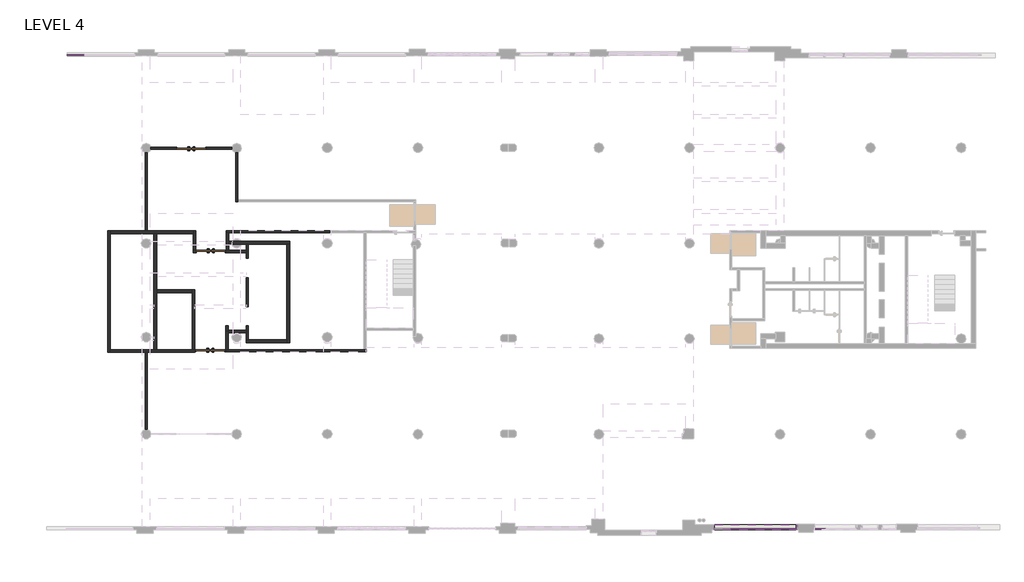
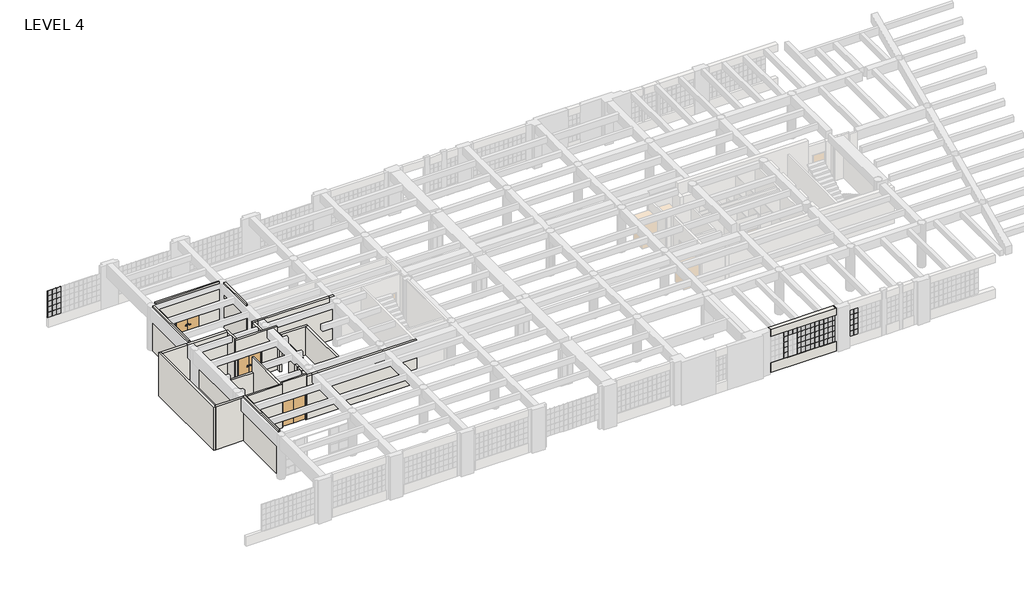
# One storey, part 9 of 26: 77 plates, 27 walls, 3 doors.
"""IFC4 building model written with IfcOpenShell, lengths in millimetres."""

from ifc_helpers import new_model, si_unit, frame, origin, origin_with_axes, place, context, project, spatial, polyline, outline, extrude, faceted_brep, transform, mapped, element, save
from components import door_08_door_double_swing_wh_f_36x84_ce0bac59, door_08_door_double_swing_wh_f_36x84_f193bb77, door_08_door_double_swing_wh_f_36x84_750f74ca, system_panel_glazed_ab35d819, system_panel_glazed_96186606, system_panel_glazed_418eb6cd, system_panel_glazed_24dc3dec

model = new_model("IFC4")

# Units and contexts
model_context = context("Model", 3, world=origin())
ifc_project = project(units=[si_unit("LENGTHUNIT", "METRE", prefix="MILLI")], contexts=[model_context])

# Site, building, storey
site = spatial("IfcSite", under=ifc_project)
building = spatial("IfcBuilding", under=site)
storey = spatial("IfcBuildingStorey", under=building, Name="LEVEL 4", Elevation=0.0)

# Doors
placement = place(None, origin())
door_08_door_double_swing_wh_f_36x84_shape = door_08_door_double_swing_wh_f_36x84_ce0bac59(model_context)
element("IfcDoor", 1, ObjectType="08-DOOR-DOUBLE-SWING-WH : F_36x84", at=placement, inside=storey, context=model_context, shape_type="MappedRepresentation", body=[
    mapped(door_08_door_double_swing_wh_f_36x84_shape, transform((-38929.2355887, 104786.3220201, 0.0), x_axis=(-1.0, 0.0, 0.0), y_axis=(0.0, -1.0, 0.0), z_axis=(0.0, 0.0, 1.0))),
])
door_08_door_double_swing_wh_f_36x84_2_shape = door_08_door_double_swing_wh_f_36x84_f193bb77(model_context)
element("IfcDoor", 2, ObjectType="08-DOOR-DOUBLE-SWING-WH : F_36x84", at=placement, inside=storey, context=model_context, shape_type="MappedRepresentation", body=[
    mapped(door_08_door_double_swing_wh_f_36x84_2_shape, transform((-40154.7855887, 111312.5141363, 0.0), x_axis=(-1.0, 0.0, 0.0), y_axis=(0.0, -1.0, 0.0), z_axis=(0.0, 0.0, 1.0))),
])
door_08_door_double_swing_wh_f_36x84_3_shape = door_08_door_double_swing_wh_f_36x84_750f74ca(model_context)
element("IfcDoor", 3, ObjectType="08-DOOR-DOUBLE-SWING-WH : F_36x84", at=placement, inside=storey, context=model_context, shape_type="MappedRepresentation", body=[
    mapped(door_08_door_double_swing_wh_f_36x84_3_shape, transform((-38992.2038459, 98511.2091334, 0.0), x_axis=(1.0, 0.0, 0.0), y_axis=(0.0, 1.0, 0.0), z_axis=(0.0, 0.0, 1.0))),
])

# Plates
system_panel_glazed_shape = system_panel_glazed_ab35d819(model_context)
element("IfcPlate", 4, ObjectType="System Panel : Glazed", at=placement, inside=storey, context=model_context, shape_type="MappedRepresentation", body=[
    mapped(system_panel_glazed_shape, transform((-2376.508547, 87313.5556598, 800.1), x_axis=(1.0, 0.0, 0.0), y_axis=(0.0, 1.0, 0.0), z_axis=(0.0, 0.0, 1.0))),
])
element("IfcPlate", 5, ObjectType="System Panel : Glazed", at=placement, inside=storey, context=model_context, shape_type="MappedRepresentation", body=[
    mapped(system_panel_glazed_shape, transform((-668.7769375, 87317.5397286, 800.1), x_axis=(1.0, 0.0, 0.0), y_axis=(0.0, 1.0, 0.0), z_axis=(0.0, 0.0, 1.0))),
])
element("IfcPlate", 6, ObjectType="System Panel : Glazed", at=placement, inside=storey, context=model_context, shape_type="MappedRepresentation", body=[
    mapped(system_panel_glazed_shape, transform((-2732.108547, 87313.5556598, 800.1), x_axis=(1.0, 0.0, 0.0), y_axis=(0.0, 1.0, 0.0), z_axis=(0.0, 0.0, 1.0))),
])
element("IfcPlate", 7, ObjectType="System Panel : Glazed", at=placement, inside=storey, context=model_context, shape_type="MappedRepresentation", body=[
    mapped(system_panel_glazed_shape, transform((-3087.708547, 87313.5556598, 800.1), x_axis=(1.0, 0.0, 0.0), y_axis=(0.0, 1.0, 0.0), z_axis=(0.0, 0.0, 1.0))),
])
element("IfcPlate", 8, ObjectType="System Panel : Glazed", at=placement, inside=storey, context=model_context, shape_type="MappedRepresentation", body=[
    mapped(system_panel_glazed_shape, transform((-3443.308547, 87313.5556598, 800.1), x_axis=(1.0, 0.0, 0.0), y_axis=(0.0, 1.0, 0.0), z_axis=(0.0, 0.0, 1.0))),
])
element("IfcPlate", 9, ObjectType="System Panel : Glazed", at=placement, inside=storey, context=model_context, shape_type="MappedRepresentation", body=[
    mapped(system_panel_glazed_shape, transform((-3798.908547, 87313.5556598, 800.1), x_axis=(1.0, 0.0, 0.0), y_axis=(0.0, 1.0, 0.0), z_axis=(0.0, 0.0, 1.0))),
])
element("IfcPlate", 10, ObjectType="System Panel : Glazed", at=placement, inside=storey, context=model_context, shape_type="MappedRepresentation", body=[
    mapped(system_panel_glazed_shape, transform((-4154.508547, 87313.5556598, 800.1), x_axis=(1.0, 0.0, 0.0), y_axis=(0.0, 1.0, 0.0), z_axis=(0.0, 0.0, 1.0))),
])
element("IfcPlate", 11, ObjectType="System Panel : Glazed", at=placement, inside=storey, context=model_context, shape_type="MappedRepresentation", body=[
    mapped(system_panel_glazed_shape, transform((-4510.108547, 87313.5556598, 800.1), x_axis=(1.0, 0.0, 0.0), y_axis=(0.0, 1.0, 0.0), z_axis=(0.0, 0.0, 1.0))),
])
element("IfcPlate", 12, ObjectType="System Panel : Glazed", at=placement, inside=storey, context=model_context, shape_type="MappedRepresentation", body=[
    mapped(system_panel_glazed_shape, transform((-4865.708547, 87313.5556598, 800.1), x_axis=(1.0, 0.0, 0.0), y_axis=(0.0, 1.0, 0.0), z_axis=(0.0, 0.0, 1.0))),
])
element("IfcPlate", 13, ObjectType="System Panel : Glazed", at=placement, inside=storey, context=model_context, shape_type="MappedRepresentation", body=[
    mapped(system_panel_glazed_shape, transform((-2732.108547, 87313.5556598, 1257.3), x_axis=(1.0, 0.0, 0.0), y_axis=(0.0, 1.0, 0.0), z_axis=(0.0, 0.0, 1.0))),
])
element("IfcPlate", 14, ObjectType="System Panel : Glazed", at=placement, inside=storey, context=model_context, shape_type="MappedRepresentation", body=[
    mapped(system_panel_glazed_shape, transform((-3087.708547, 87313.5556598, 1257.3), x_axis=(1.0, 0.0, 0.0), y_axis=(0.0, 1.0, 0.0), z_axis=(0.0, 0.0, 1.0))),
])
element("IfcPlate", 15, ObjectType="System Panel : Glazed", at=placement, inside=storey, context=model_context, shape_type="MappedRepresentation", body=[
    mapped(system_panel_glazed_shape, transform((-3443.308547, 87313.5556598, 1257.3), x_axis=(1.0, 0.0, 0.0), y_axis=(0.0, 1.0, 0.0), z_axis=(0.0, 0.0, 1.0))),
])
element("IfcPlate", 16, ObjectType="System Panel : Glazed", at=placement, inside=storey, context=model_context, shape_type="MappedRepresentation", body=[
    mapped(system_panel_glazed_shape, transform((-3798.908547, 87313.5556598, 1257.3), x_axis=(1.0, 0.0, 0.0), y_axis=(0.0, 1.0, 0.0), z_axis=(0.0, 0.0, 1.0))),
])
element("IfcPlate", 17, ObjectType="System Panel : Glazed", at=placement, inside=storey, context=model_context, shape_type="MappedRepresentation", body=[
    mapped(system_panel_glazed_shape, transform((-4154.508547, 87313.5556598, 1257.3), x_axis=(1.0, 0.0, 0.0), y_axis=(0.0, 1.0, 0.0), z_axis=(0.0, 0.0, 1.0))),
])
element("IfcPlate", 18, ObjectType="System Panel : Glazed", at=placement, inside=storey, context=model_context, shape_type="MappedRepresentation", body=[
    mapped(system_panel_glazed_shape, transform((-4510.108547, 87313.5556598, 1257.3), x_axis=(1.0, 0.0, 0.0), y_axis=(0.0, 1.0, 0.0), z_axis=(0.0, 0.0, 1.0))),
])
element("IfcPlate", 19, ObjectType="System Panel : Glazed", at=placement, inside=storey, context=model_context, shape_type="MappedRepresentation", body=[
    mapped(system_panel_glazed_shape, transform((-4865.708547, 87313.5556598, 1257.3), x_axis=(1.0, 0.0, 0.0), y_axis=(0.0, 1.0, 0.0), z_axis=(0.0, 0.0, 1.0))),
])
element("IfcPlate", 20, ObjectType="System Panel : Glazed", at=placement, inside=storey, context=model_context, shape_type="MappedRepresentation", body=[
    mapped(system_panel_glazed_shape, transform((-2376.508547, 87313.5556598, 1257.3), x_axis=(1.0, 0.0, 0.0), y_axis=(0.0, 1.0, 0.0), z_axis=(0.0, 0.0, 1.0))),
])
element("IfcPlate", 21, ObjectType="System Panel : Glazed", at=placement, inside=storey, context=model_context, shape_type="MappedRepresentation", body=[
    mapped(system_panel_glazed_shape, transform((-2732.108547, 87313.5556598, 1714.5), x_axis=(1.0, 0.0, 0.0), y_axis=(0.0, 1.0, 0.0), z_axis=(0.0, 0.0, 1.0))),
])
element("IfcPlate", 22, ObjectType="System Panel : Glazed", at=placement, inside=storey, context=model_context, shape_type="MappedRepresentation", body=[
    mapped(system_panel_glazed_shape, transform((-3087.708547, 87313.5556598, 1714.5), x_axis=(1.0, 0.0, 0.0), y_axis=(0.0, 1.0, 0.0), z_axis=(0.0, 0.0, 1.0))),
])
element("IfcPlate", 23, ObjectType="System Panel : Glazed", at=placement, inside=storey, context=model_context, shape_type="MappedRepresentation", body=[
    mapped(system_panel_glazed_shape, transform((-3443.308547, 87313.5556598, 1714.5), x_axis=(1.0, 0.0, 0.0), y_axis=(0.0, 1.0, 0.0), z_axis=(0.0, 0.0, 1.0))),
])
element("IfcPlate", 24, ObjectType="System Panel : Glazed", at=placement, inside=storey, context=model_context, shape_type="MappedRepresentation", body=[
    mapped(system_panel_glazed_shape, transform((-3798.908547, 87313.5556598, 1714.5), x_axis=(1.0, 0.0, 0.0), y_axis=(0.0, 1.0, 0.0), z_axis=(0.0, 0.0, 1.0))),
])
element("IfcPlate", 25, ObjectType="System Panel : Glazed", at=placement, inside=storey, context=model_context, shape_type="MappedRepresentation", body=[
    mapped(system_panel_glazed_shape, transform((-4154.508547, 87313.5556598, 1714.5), x_axis=(1.0, 0.0, 0.0), y_axis=(0.0, 1.0, 0.0), z_axis=(0.0, 0.0, 1.0))),
])
element("IfcPlate", 26, ObjectType="System Panel : Glazed", at=placement, inside=storey, context=model_context, shape_type="MappedRepresentation", body=[
    mapped(system_panel_glazed_shape, transform((-4510.108547, 87313.5556598, 1714.5), x_axis=(1.0, 0.0, 0.0), y_axis=(0.0, 1.0, 0.0), z_axis=(0.0, 0.0, 1.0))),
])
element("IfcPlate", 27, ObjectType="System Panel : Glazed", at=placement, inside=storey, context=model_context, shape_type="MappedRepresentation", body=[
    mapped(system_panel_glazed_shape, transform((-4865.708547, 87313.5556598, 1714.5), x_axis=(1.0, 0.0, 0.0), y_axis=(0.0, 1.0, 0.0), z_axis=(0.0, 0.0, 1.0))),
])
element("IfcPlate", 28, ObjectType="System Panel : Glazed", at=placement, inside=storey, context=model_context, shape_type="MappedRepresentation", body=[
    mapped(system_panel_glazed_shape, transform((-2376.508547, 87313.5556598, 1714.5), x_axis=(1.0, 0.0, 0.0), y_axis=(0.0, 1.0, 0.0), z_axis=(0.0, 0.0, 1.0))),
])
element("IfcPlate", 29, ObjectType="System Panel : Glazed", at=placement, inside=storey, context=model_context, shape_type="MappedRepresentation", body=[
    mapped(system_panel_glazed_shape, transform((-2732.108547, 87313.5556598, 2171.7), x_axis=(1.0, 0.0, 0.0), y_axis=(0.0, 1.0, 0.0), z_axis=(0.0, 0.0, 1.0))),
])
element("IfcPlate", 30, ObjectType="System Panel : Glazed", at=placement, inside=storey, context=model_context, shape_type="MappedRepresentation", body=[
    mapped(system_panel_glazed_shape, transform((-3087.708547, 87313.5556598, 2171.7), x_axis=(1.0, 0.0, 0.0), y_axis=(0.0, 1.0, 0.0), z_axis=(0.0, 0.0, 1.0))),
])
element("IfcPlate", 31, ObjectType="System Panel : Glazed", at=placement, inside=storey, context=model_context, shape_type="MappedRepresentation", body=[
    mapped(system_panel_glazed_shape, transform((-3443.308547, 87313.5556598, 2171.7), x_axis=(1.0, 0.0, 0.0), y_axis=(0.0, 1.0, 0.0), z_axis=(0.0, 0.0, 1.0))),
])
element("IfcPlate", 32, ObjectType="System Panel : Glazed", at=placement, inside=storey, context=model_context, shape_type="MappedRepresentation", body=[
    mapped(system_panel_glazed_shape, transform((-3798.908547, 87313.5556598, 2171.7), x_axis=(1.0, 0.0, 0.0), y_axis=(0.0, 1.0, 0.0), z_axis=(0.0, 0.0, 1.0))),
])
element("IfcPlate", 33, ObjectType="System Panel : Glazed", at=placement, inside=storey, context=model_context, shape_type="MappedRepresentation", body=[
    mapped(system_panel_glazed_shape, transform((-4154.508547, 87313.5556598, 2171.7), x_axis=(1.0, 0.0, 0.0), y_axis=(0.0, 1.0, 0.0), z_axis=(0.0, 0.0, 1.0))),
])
element("IfcPlate", 34, ObjectType="System Panel : Glazed", at=placement, inside=storey, context=model_context, shape_type="MappedRepresentation", body=[
    mapped(system_panel_glazed_shape, transform((-4510.108547, 87313.5556598, 2171.7), x_axis=(1.0, 0.0, 0.0), y_axis=(0.0, 1.0, 0.0), z_axis=(0.0, 0.0, 1.0))),
])
element("IfcPlate", 35, ObjectType="System Panel : Glazed", at=placement, inside=storey, context=model_context, shape_type="MappedRepresentation", body=[
    mapped(system_panel_glazed_shape, transform((-4865.708547, 87313.5556598, 2171.7), x_axis=(1.0, 0.0, 0.0), y_axis=(0.0, 1.0, 0.0), z_axis=(0.0, 0.0, 1.0))),
])
element("IfcPlate", 36, ObjectType="System Panel : Glazed", at=placement, inside=storey, context=model_context, shape_type="MappedRepresentation", body=[
    mapped(system_panel_glazed_shape, transform((-2376.508547, 87313.5556598, 2171.7), x_axis=(1.0, 0.0, 0.0), y_axis=(0.0, 1.0, 0.0), z_axis=(0.0, 0.0, 1.0))),
])
element("IfcPlate", 37, ObjectType="System Panel : Glazed", at=placement, inside=storey, context=model_context, shape_type="MappedRepresentation", body=[
    mapped(system_panel_glazed_shape, transform((-668.7769375, 87317.5397286, 1257.3), x_axis=(1.0, 0.0, 0.0), y_axis=(0.0, 1.0, 0.0), z_axis=(0.0, 0.0, 1.0))),
])
element("IfcPlate", 38, ObjectType="System Panel : Glazed", at=placement, inside=storey, context=model_context, shape_type="MappedRepresentation", body=[
    mapped(system_panel_glazed_shape, transform((-668.7769375, 87317.5397286, 1714.5), x_axis=(1.0, 0.0, 0.0), y_axis=(0.0, 1.0, 0.0), z_axis=(0.0, 0.0, 1.0))),
])
element("IfcPlate", 39, ObjectType="System Panel : Glazed", at=placement, inside=storey, context=model_context, shape_type="MappedRepresentation", body=[
    mapped(system_panel_glazed_shape, transform((-668.7769375, 87317.5397286, 2171.7), x_axis=(1.0, 0.0, 0.0), y_axis=(0.0, 1.0, 0.0), z_axis=(0.0, 0.0, 1.0))),
])
element("IfcPlate", 40, ObjectType="System Panel : Glazed", at=placement, inside=storey, context=model_context, shape_type="MappedRepresentation", body=[
    mapped(system_panel_glazed_shape, transform((-5932.508547, 87313.5556598, 800.1), x_axis=(1.0, 0.0, 0.0), y_axis=(0.0, 1.0, 0.0), z_axis=(0.0, 0.0, 1.0))),
])
element("IfcPlate", 41, ObjectType="System Panel : Glazed", at=placement, inside=storey, context=model_context, shape_type="MappedRepresentation", body=[
    mapped(system_panel_glazed_shape, transform((-5932.508547, 87313.5556598, 1257.3), x_axis=(1.0, 0.0, 0.0), y_axis=(0.0, 1.0, 0.0), z_axis=(0.0, 0.0, 1.0))),
])
element("IfcPlate", 42, ObjectType="System Panel : Glazed", at=placement, inside=storey, context=model_context, shape_type="MappedRepresentation", body=[
    mapped(system_panel_glazed_shape, transform((-5932.508547, 87313.5556598, 1714.5), x_axis=(1.0, 0.0, 0.0), y_axis=(0.0, 1.0, 0.0), z_axis=(0.0, 0.0, 1.0))),
])
element("IfcPlate", 43, ObjectType="System Panel : Glazed", at=placement, inside=storey, context=model_context, shape_type="MappedRepresentation", body=[
    mapped(system_panel_glazed_shape, transform((-5932.508547, 87313.5556598, 2171.7), x_axis=(1.0, 0.0, 0.0), y_axis=(0.0, 1.0, 0.0), z_axis=(0.0, 0.0, 1.0))),
])
element("IfcPlate", 44, ObjectType="System Panel : Glazed", at=placement, inside=storey, context=model_context, shape_type="MappedRepresentation", body=[
    mapped(system_panel_glazed_shape, transform((-313.1769373, 87317.5397286, 800.1), x_axis=(1.0, 0.0, 0.0), y_axis=(0.0, 1.0, 0.0), z_axis=(0.0, 0.0, 1.0))),
])
element("IfcPlate", 45, ObjectType="System Panel : Glazed", at=placement, inside=storey, context=model_context, shape_type="MappedRepresentation", body=[
    mapped(system_panel_glazed_shape, transform((-313.1769373, 87317.5397286, 1257.3), x_axis=(1.0, 0.0, 0.0), y_axis=(0.0, 1.0, 0.0), z_axis=(0.0, 0.0, 1.0))),
])
element("IfcPlate", 46, ObjectType="System Panel : Glazed", at=placement, inside=storey, context=model_context, shape_type="MappedRepresentation", body=[
    mapped(system_panel_glazed_shape, transform((-313.1769373, 87317.5397286, 1714.5), x_axis=(1.0, 0.0, 0.0), y_axis=(0.0, 1.0, 0.0), z_axis=(0.0, 0.0, 1.0))),
])
element("IfcPlate", 47, ObjectType="System Panel : Glazed", at=placement, inside=storey, context=model_context, shape_type="MappedRepresentation", body=[
    mapped(system_panel_glazed_shape, transform((-313.1769373, 87317.5397286, 2171.7), x_axis=(1.0, 0.0, 0.0), y_axis=(0.0, 1.0, 0.0), z_axis=(0.0, 0.0, 1.0))),
])
element("IfcPlate", 48, ObjectType="System Panel : Glazed", at=placement, inside=storey, context=model_context, shape_type="MappedRepresentation", body=[
    mapped(system_panel_glazed_shape, transform((-47813.8502762, 117210.7486604, 800.1), x_axis=(1.0, 0.0, 0.0), y_axis=(0.0, 1.0, 0.0), z_axis=(0.0, 0.0, 1.0))),
])
element("IfcPlate", 49, ObjectType="System Panel : Glazed", at=placement, inside=storey, context=model_context, shape_type="MappedRepresentation", body=[
    mapped(system_panel_glazed_shape, transform((-47813.8502762, 117210.7486604, 1257.3), x_axis=(1.0, 0.0, 0.0), y_axis=(0.0, 1.0, 0.0), z_axis=(0.0, 0.0, 1.0))),
])
element("IfcPlate", 50, ObjectType="System Panel : Glazed", at=placement, inside=storey, context=model_context, shape_type="MappedRepresentation", body=[
    mapped(system_panel_glazed_shape, transform((-47813.8502762, 117210.7486604, 1714.5), x_axis=(1.0, 0.0, 0.0), y_axis=(0.0, 1.0, 0.0), z_axis=(0.0, 0.0, 1.0))),
])
element("IfcPlate", 51, ObjectType="System Panel : Glazed", at=placement, inside=storey, context=model_context, shape_type="MappedRepresentation", body=[
    mapped(system_panel_glazed_shape, transform((-47813.8502762, 117210.7486604, 2171.7), x_axis=(1.0, 0.0, 0.0), y_axis=(0.0, 1.0, 0.0), z_axis=(0.0, 0.0, 1.0))),
])
element("IfcPlate", 52, ObjectType="System Panel : Glazed", at=placement, inside=storey, context=model_context, shape_type="MappedRepresentation", body=[
    mapped(system_panel_glazed_shape, transform((-47458.250276, 117210.7486604, 800.1), x_axis=(1.0, 0.0, 0.0), y_axis=(0.0, 1.0, 0.0), z_axis=(0.0, 0.0, 1.0))),
])
element("IfcPlate", 53, ObjectType="System Panel : Glazed", at=placement, inside=storey, context=model_context, shape_type="MappedRepresentation", body=[
    mapped(system_panel_glazed_shape, transform((-47458.250276, 117210.7486604, 1257.3), x_axis=(1.0, 0.0, 0.0), y_axis=(0.0, 1.0, 0.0), z_axis=(0.0, 0.0, 1.0))),
])
element("IfcPlate", 54, ObjectType="System Panel : Glazed", at=placement, inside=storey, context=model_context, shape_type="MappedRepresentation", body=[
    mapped(system_panel_glazed_shape, transform((-47458.250276, 117210.7486604, 1714.5), x_axis=(1.0, 0.0, 0.0), y_axis=(0.0, 1.0, 0.0), z_axis=(0.0, 0.0, 1.0))),
])
element("IfcPlate", 55, ObjectType="System Panel : Glazed", at=placement, inside=storey, context=model_context, shape_type="MappedRepresentation", body=[
    mapped(system_panel_glazed_shape, transform((-47458.250276, 117210.7486604, 2171.7), x_axis=(1.0, 0.0, 0.0), y_axis=(0.0, 1.0, 0.0), z_axis=(0.0, 0.0, 1.0))),
])
element("IfcPlate", 56, ObjectType="System Panel : Glazed", at=placement, inside=storey, context=model_context, shape_type="MappedRepresentation", body=[
    mapped(system_panel_glazed_shape, transform((-47102.650276, 117210.7486604, 800.1), x_axis=(1.0, 0.0, 0.0), y_axis=(0.0, 1.0, 0.0), z_axis=(0.0, 0.0, 1.0))),
])
element("IfcPlate", 57, ObjectType="System Panel : Glazed", at=placement, inside=storey, context=model_context, shape_type="MappedRepresentation", body=[
    mapped(system_panel_glazed_shape, transform((-47102.650276, 117210.7486604, 1257.3), x_axis=(1.0, 0.0, 0.0), y_axis=(0.0, 1.0, 0.0), z_axis=(0.0, 0.0, 1.0))),
])
element("IfcPlate", 58, ObjectType="System Panel : Glazed", at=placement, inside=storey, context=model_context, shape_type="MappedRepresentation", body=[
    mapped(system_panel_glazed_shape, transform((-47102.650276, 117210.7486604, 1714.5), x_axis=(1.0, 0.0, 0.0), y_axis=(0.0, 1.0, 0.0), z_axis=(0.0, 0.0, 1.0))),
])
element("IfcPlate", 59, ObjectType="System Panel : Glazed", at=placement, inside=storey, context=model_context, shape_type="MappedRepresentation", body=[
    mapped(system_panel_glazed_shape, transform((-47102.650276, 117210.7486604, 2171.7), x_axis=(1.0, 0.0, 0.0), y_axis=(0.0, 1.0, 0.0), z_axis=(0.0, 0.0, 1.0))),
])
system_panel_glazed_2_shape = system_panel_glazed_96186606(model_context)
element("IfcPlate", 60, ObjectType="System Panel : Glazed", at=placement, inside=storey, context=model_context, shape_type="MappedRepresentation", body=[
    mapped(system_panel_glazed_2_shape, transform((-2091.5071783, 87313.5556598, 800.1), x_axis=(1.0, 0.0, 0.0), y_axis=(0.0, 1.0, 0.0), z_axis=(0.0, 0.0, 1.0))),
])
element("IfcPlate", 61, ObjectType="System Panel : Glazed", at=placement, inside=storey, context=model_context, shape_type="MappedRepresentation", body=[
    mapped(system_panel_glazed_2_shape, transform((-2091.5071783, 87313.5556598, 1257.3), x_axis=(1.0, 0.0, 0.0), y_axis=(0.0, 1.0, 0.0), z_axis=(0.0, 0.0, 1.0))),
])
element("IfcPlate", 62, ObjectType="System Panel : Glazed", at=placement, inside=storey, context=model_context, shape_type="MappedRepresentation", body=[
    mapped(system_panel_glazed_2_shape, transform((-2091.5071783, 87313.5556598, 1714.5), x_axis=(1.0, 0.0, 0.0), y_axis=(0.0, 1.0, 0.0), z_axis=(0.0, 0.0, 1.0))),
])
element("IfcPlate", 63, ObjectType="System Panel : Glazed", at=placement, inside=storey, context=model_context, shape_type="MappedRepresentation", body=[
    mapped(system_panel_glazed_2_shape, transform((-2091.5071783, 87313.5556598, 2171.7), x_axis=(1.0, 0.0, 0.0), y_axis=(0.0, 1.0, 0.0), z_axis=(0.0, 0.0, 1.0))),
])
system_panel_glazed_3_shape = system_panel_glazed_418eb6cd(model_context)
element("IfcPlate", 64, ObjectType="System Panel : Glazed", at=placement, inside=storey, context=model_context, shape_type="MappedRepresentation", body=[
    mapped(system_panel_glazed_3_shape, transform((-2732.108547, 87313.5556598, 2628.9), x_axis=(1.0, 0.0, 0.0), y_axis=(0.0, 1.0, 0.0), z_axis=(0.0, 0.0, 1.0))),
])
element("IfcPlate", 65, ObjectType="System Panel : Glazed", at=placement, inside=storey, context=model_context, shape_type="MappedRepresentation", body=[
    mapped(system_panel_glazed_3_shape, transform((-3087.708547, 87313.5556598, 2628.9), x_axis=(1.0, 0.0, 0.0), y_axis=(0.0, 1.0, 0.0), z_axis=(0.0, 0.0, 1.0))),
])
element("IfcPlate", 66, ObjectType="System Panel : Glazed", at=placement, inside=storey, context=model_context, shape_type="MappedRepresentation", body=[
    mapped(system_panel_glazed_3_shape, transform((-3443.308547, 87313.5556598, 2628.9), x_axis=(1.0, 0.0, 0.0), y_axis=(0.0, 1.0, 0.0), z_axis=(0.0, 0.0, 1.0))),
])
element("IfcPlate", 67, ObjectType="System Panel : Glazed", at=placement, inside=storey, context=model_context, shape_type="MappedRepresentation", body=[
    mapped(system_panel_glazed_3_shape, transform((-3798.908547, 87313.5556598, 2628.9), x_axis=(1.0, 0.0, 0.0), y_axis=(0.0, 1.0, 0.0), z_axis=(0.0, 0.0, 1.0))),
])
element("IfcPlate", 68, ObjectType="System Panel : Glazed", at=placement, inside=storey, context=model_context, shape_type="MappedRepresentation", body=[
    mapped(system_panel_glazed_3_shape, transform((-4154.508547, 87313.5556598, 2628.9), x_axis=(1.0, 0.0, 0.0), y_axis=(0.0, 1.0, 0.0), z_axis=(0.0, 0.0, 1.0))),
])
element("IfcPlate", 69, ObjectType="System Panel : Glazed", at=placement, inside=storey, context=model_context, shape_type="MappedRepresentation", body=[
    mapped(system_panel_glazed_3_shape, transform((-4510.108547, 87313.5556598, 2628.9), x_axis=(1.0, 0.0, 0.0), y_axis=(0.0, 1.0, 0.0), z_axis=(0.0, 0.0, 1.0))),
])
element("IfcPlate", 70, ObjectType="System Panel : Glazed", at=placement, inside=storey, context=model_context, shape_type="MappedRepresentation", body=[
    mapped(system_panel_glazed_3_shape, transform((-4865.708547, 87313.5556598, 2628.9), x_axis=(1.0, 0.0, 0.0), y_axis=(0.0, 1.0, 0.0), z_axis=(0.0, 0.0, 1.0))),
])
element("IfcPlate", 71, ObjectType="System Panel : Glazed", at=placement, inside=storey, context=model_context, shape_type="MappedRepresentation", body=[
    mapped(system_panel_glazed_3_shape, transform((-5221.308547, 87313.5556598, 2628.9), x_axis=(1.0, 0.0, 0.0), y_axis=(0.0, 1.0, 0.0), z_axis=(0.0, 0.0, 1.0))),
])
element("IfcPlate", 72, ObjectType="System Panel : Glazed", at=placement, inside=storey, context=model_context, shape_type="MappedRepresentation", body=[
    mapped(system_panel_glazed_3_shape, transform((-5576.908547, 87313.5556598, 2628.9), x_axis=(1.0, 0.0, 0.0), y_axis=(0.0, 1.0, 0.0), z_axis=(0.0, 0.0, 1.0))),
])
element("IfcPlate", 73, ObjectType="System Panel : Glazed", at=placement, inside=storey, context=model_context, shape_type="MappedRepresentation", body=[
    mapped(system_panel_glazed_3_shape, transform((-2376.508547, 87313.5556598, 2628.9), x_axis=(1.0, 0.0, 0.0), y_axis=(0.0, 1.0, 0.0), z_axis=(0.0, 0.0, 1.0))),
])
element("IfcPlate", 74, ObjectType="System Panel : Glazed", at=placement, inside=storey, context=model_context, shape_type="MappedRepresentation", body=[
    mapped(system_panel_glazed_3_shape, transform((-668.7769375, 87317.5397286, 2628.9), x_axis=(1.0, 0.0, 0.0), y_axis=(0.0, 1.0, 0.0), z_axis=(0.0, 0.0, 1.0))),
])
element("IfcPlate", 75, ObjectType="System Panel : Glazed", at=placement, inside=storey, context=model_context, shape_type="MappedRepresentation", body=[
    mapped(system_panel_glazed_3_shape, transform((-5932.508547, 87313.5556598, 2628.9), x_axis=(1.0, 0.0, 0.0), y_axis=(0.0, 1.0, 0.0), z_axis=(0.0, 0.0, 1.0))),
])
element("IfcPlate", 76, ObjectType="System Panel : Glazed", at=placement, inside=storey, context=model_context, shape_type="MappedRepresentation", body=[
    mapped(system_panel_glazed_3_shape, transform((-313.1769373, 87317.5397286, 2628.9), x_axis=(1.0, 0.0, 0.0), y_axis=(0.0, 1.0, 0.0), z_axis=(0.0, 0.0, 1.0))),
])
element("IfcPlate", 77, ObjectType="System Panel : Glazed", at=placement, inside=storey, context=model_context, shape_type="MappedRepresentation", body=[
    mapped(system_panel_glazed_3_shape, transform((-47813.8502762, 117210.7486604, 2628.9), x_axis=(1.0, 0.0, 0.0), y_axis=(0.0, 1.0, 0.0), z_axis=(0.0, 0.0, 1.0))),
])
element("IfcPlate", 78, ObjectType="System Panel : Glazed", at=placement, inside=storey, context=model_context, shape_type="MappedRepresentation", body=[
    mapped(system_panel_glazed_3_shape, transform((-47458.250276, 117210.7486604, 2628.9), x_axis=(1.0, 0.0, 0.0), y_axis=(0.0, 1.0, 0.0), z_axis=(0.0, 0.0, 1.0))),
])
element("IfcPlate", 79, ObjectType="System Panel : Glazed", at=placement, inside=storey, context=model_context, shape_type="MappedRepresentation", body=[
    mapped(system_panel_glazed_3_shape, transform((-47102.650276, 117210.7486604, 2628.9), x_axis=(1.0, 0.0, 0.0), y_axis=(0.0, 1.0, 0.0), z_axis=(0.0, 0.0, 1.0))),
])
system_panel_glazed_4_shape = system_panel_glazed_24dc3dec(model_context)
element("IfcPlate", 80, ObjectType="System Panel : Glazed", at=placement, inside=storey, context=model_context, shape_type="MappedRepresentation", body=[
    mapped(system_panel_glazed_4_shape, transform((-2091.5071783, 87313.5556598, 2628.9), x_axis=(1.0, 0.0, 0.0), y_axis=(0.0, 1.0, 0.0), z_axis=(0.0, 0.0, 1.0))),
])

# Walls
element("IfcWall", 81, ObjectType="A_6.0Stud_0Hr_1GB_FullHeight", at=placement, inside=storey, context=model_context, shape_type="Brep", body=[
    faceted_brep([(-45305.6835473, 105897.5720201, 0.0), (-42540.2585473, 105897.5720201, 0.0), (-42356.1085473, 105897.5720201, 0.0), (-40065.2009089, 105897.5720201, 0.0), (-40065.2009089, 105897.5720201, 3657.6), (-45305.6835473, 105897.5720201, 3657.6), (-45305.6835473, 106081.7220201, 0.0), (-45305.6835473, 106081.7220201, 3657.6), (-40065.2009089, 106081.7220201, 3657.6), (-40065.2009089, 106081.7220201, 0.0)], [[[0, 1, 2, 3, 4, 5]], [[6, 7, 8, 9]], [[3, 2, 1, 0, 6, 9]], [[5, 4, 8, 7]], [[0, 5, 7, 6]], [[4, 3, 9, 8]]]),
])
element("IfcWall", 82, ObjectType="A_3.6Stud_0Hr_1GB_FullHeight", at=placement, inside=storey, context=model_context, shape_type="SweptSolid", body=[
    extrude(outline(polyline([(-43092.5634089, 106081.7220201), (-43092.5634089, 111007.7141363), (-42968.7384089, 111007.7141363), (-42968.7384089, 106081.7220201), (-43092.5634089, 106081.7220201)])), origin_with_axes(), (0.0, 0.0, 1.0), 3810.0),
])
element("IfcWall", 83, ObjectType="A_3.6Stud_0Hr_1GB_FullHeight", at=placement, inside=storey, context=model_context, shape_type="Brep", body=[
    faceted_brep([(-37377.5634089, 111007.7141363, 0.0), (-37377.5634089, 107940.9591334, 0.0), (-37377.5634089, 107940.9591334, 3810.0), (-37377.5634089, 111007.7141363, 3810.0), (-37253.7384089, 111007.7141363, 0.0), (-37253.7384089, 111007.7141363, 3810.0), (-37253.7384089, 108064.7841334, 3810.0), (-37253.7384089, 107940.9591334, 3810.0), (-37253.7384089, 107940.9591334, 0.0), (-37253.7384089, 108064.7841334, 0.0)], [[[0, 1, 2, 3]], [[4, 5, 6, 7, 8, 9]], [[1, 0, 4, 9, 8]], [[3, 2, 7, 6, 5]], [[0, 3, 5, 4]], [[2, 1, 8, 7]]]),
])
element("IfcWall", 84, ObjectType="A_3.6Stud_0Hr_1GB_FullHeight", at=placement, inside=storey, context=model_context, shape_type="SweptSolid", body=[
    extrude(outline(polyline([(0.0, -42725.8509089), (0.0, -41138.3509089), (2184.4, -41138.3509089), (2184.4, -39207.9509089), (0.0, -39207.9509089), (0.0, -37620.4509089), (3810.0, -37620.4509089), (3810.0, -42725.8509089), (0.0, -42725.8509089)])), frame((0.0, 111250.6016363, 0.0), z_axis=(0.0, 1.0, 0.0), x_axis=(0.0, 0.0, 1.0)), (0.0, 0.0, 1.0), 123.825),
])
element("IfcWall", 85, ObjectType="A_3.6Stud_0Hr_1GB_FullHeight", at=placement, inside=storey, context=model_context, shape_type="SweptSolid", body=[
    extrude(outline(polyline([(-43092.5634089, 93577.2591334), (-43092.5634089, 98422.7293024), (-42968.7384089, 98422.7293024), (-42968.7384089, 93577.2591334), (-43092.5634089, 93577.2591334)])), origin_with_axes(), (0.0, 0.0, 1.0), 3810.0),
])
element("IfcWall", 86, ObjectType="B_2.5Stud_2Hr_2GB_FullHeight", at=placement, inside=storey, context=model_context, shape_type="Brep", body=[
    faceted_brep([(-39955.8085473, 98574.7091334, 3810.0), (-37991.8685042, 98574.7091334, 3810.0), (-37991.8685042, 98574.7091334, 0.0), (-38008.6385257, 98574.7091334, 0.0), (-38008.6385257, 98574.7091334, 2184.4), (-39939.0385257, 98574.7091334, 2184.4), (-39939.0385257, 98574.7091334, 0.0), (-39955.8085473, 98574.7091334, 0.0), (-37991.8685042, 98447.7091334, 3810.0), (-39955.8085473, 98447.7091334, 3810.0), (-39955.8085473, 98447.7091334, 0.0), (-39939.0385257, 98447.7091334, 0.0), (-39939.0385257, 98447.7091334, 2184.4), (-38008.6385257, 98447.7091334, 2184.4), (-38008.6385257, 98447.7091334, 0.0), (-37991.8685042, 98447.7091334, 0.0), (-37991.8685042, 98447.7091334, 3657.6)], [[[0, 1, 2, 3, 4, 5, 6, 7]], [[8, 9, 10, 11, 12, 13, 14, 15, 16]], [[2, 15, 14, 3]], [[10, 7, 6, 11]], [[1, 0, 9, 8]], [[2, 1, 8, 16, 15]], [[0, 7, 10, 9]], [[5, 12, 11, 6]], [[13, 4, 3, 14]], [[12, 5, 4, 13]]]),
])
element("IfcWall", 87, ObjectType="_Generic - 12\"", at=placement, inside=storey, context=model_context, shape_type="SweptSolid", body=[
    extrude(outline(polyline([(-1922.3933097, 87237.6589024), (-7177.1085473, 87237.6589024), (-7177.1085473, 87542.4589024), (-1922.3933097, 87542.4589024), (-1922.3933097, 87237.6589024)])), origin_with_axes(), (0.0, 0.0, 1.0), 800.1),
])
element("IfcWall", 88, ObjectType="_Generic - 12\"", at=placement, inside=storey, context=model_context, shape_type="SweptSolid", body=[
    extrude(outline(polyline([(-1922.3933097, 87237.6589024), (-7177.1085473, 87237.6589024), (-7177.1085473, 87542.4589024), (-1922.3933097, 87542.4589024), (-1922.3933097, 87237.6589024)])), frame((0.0, 0.0, 3048.0), z_axis=(0.0, 0.0, 1.0), x_axis=(1.0, 0.0, 0.0)), (0.0, 0.0, 1.0), 609.6),
])
element("IfcWall", 89, ObjectType="_Generic - 5\"", at=placement, inside=storey, context=model_context, shape_type="Brep", body=[
    faceted_brep([(-36590.3085473, 99212.8841334, 0.0), (-36590.3085473, 100095.5341334, 0.0), (-36590.3085473, 100095.5341334, 3048.0), (-36590.3085473, 99212.8841334, 3048.0), (-36717.3085473, 99212.8841334, 0.0), (-36717.3085473, 99212.8841334, 2438.4), (-36717.3085473, 99212.8841334, 3048.0), (-36717.3085473, 100095.5341334, 3048.0), (-36717.3085473, 100095.5341334, 0.0), (-36717.3085473, 99822.9043024, 0.0), (-36717.3085473, 99670.5043024, 0.0)], [[[0, 1, 2, 3]], [[4, 5, 6, 7, 8, 9, 10]], [[1, 0, 4, 10, 9, 8]], [[2, 1, 8, 7]], [[3, 2, 7, 6]], [[0, 3, 6, 5, 4]]]),
])
element("IfcWall", 90, ObjectType="_Generic - 5\"", at=placement, inside=storey, context=model_context, shape_type="Brep", body=[
    faceted_brep([(-36590.3085473, 104362.7341334, 0.0), (-36590.3085473, 105254.9091334, 0.0), (-36590.3085473, 105254.9091334, 3048.0), (-36590.3085473, 104362.7341334, 3048.0), (-36717.3085473, 104362.7341334, 0.0), (-36717.3085473, 104362.7341334, 3048.0), (-36717.3085473, 105254.9091334, 3048.0), (-36717.3085473, 105254.9091334, 0.0), (-36717.3085473, 104862.5220201, 0.0), (-36717.3085473, 104710.1220201, 0.0)], [[[0, 1, 2, 3]], [[4, 5, 6, 7, 8, 9]], [[1, 0, 4, 9, 8, 7]], [[3, 2, 6, 5]], [[0, 3, 5, 4]], [[2, 1, 7, 6]]]),
])
element("IfcWall", 91, ObjectType="_Generic - 5\"", at=placement, inside=storey, context=model_context, shape_type="SweptSolid", body=[
    extrude(outline(polyline([(-36590.3085473, 103143.5341334), (-36590.3085473, 101314.7341334), (-36717.3085473, 101314.7341334), (-36717.3085473, 103143.5341334), (-36590.3085473, 103143.5341334)])), origin_with_axes(), (0.0, 0.0, 1.0), 3048.0),
])
element("IfcWall", 92, ObjectType="_Generic - 6\"", at=placement, inside=storey, context=model_context, shape_type="Brep", body=[
    faceted_brep([(-36717.3085473, 104710.1220201, 3657.6), (-40065.2009089, 104710.1220201, 3657.6), (-40065.2009089, 104710.1220201, 0.0), (-39912.8009089, 104710.1220201, 0.0), (-39912.8009089, 104710.1220201, 2184.4), (-37982.4009089, 104710.1220201, 2184.4), (-37982.4009089, 104710.1220201, 0.0), (-36717.3085473, 104710.1220201, 0.0), (-40065.2009089, 104862.5220201, 3657.6), (-39912.8009089, 104862.5220201, 3657.6), (-37982.4009089, 104862.5220201, 3657.6), (-37830.0009089, 104862.5220201, 3657.6), (-36717.3085473, 104862.5220201, 3657.6), (-36717.3085473, 104862.5220201, 0.0), (-37830.0009089, 104862.5220201, 0.0), (-37982.4009089, 104862.5220201, 0.0), (-37982.4009089, 104862.5220201, 2184.4), (-39912.8009089, 104862.5220201, 2184.4), (-39912.8009089, 104862.5220201, 0.0), (-40065.2009089, 104862.5220201, 0.0)], [[[0, 1, 2, 3, 4, 5, 6, 7]], [[8, 9, 10, 11, 12, 13, 14, 15, 16, 17, 18, 19]], [[2, 19, 18, 3]], [[13, 7, 6, 15, 14]], [[1, 0, 12, 11, 10, 9, 8]], [[2, 1, 8, 19]], [[5, 16, 15, 6]], [[17, 4, 3, 18]], [[16, 5, 4, 17]], [[0, 7, 13, 12]]]),
])
element("IfcWall", 93, ObjectType="_Generic - 6\"", at=placement, inside=storey, context=model_context, shape_type="Brep", body=[
    faceted_brep([(-37982.4009089, 105959.7591334, 0.0), (-37830.0009089, 105959.7591334, 0.0), (-31441.9009089, 105959.7591334, 0.0), (-31441.9009089, 105959.7591334, 3657.6), (-37830.0009089, 105959.7591334, 3657.6), (-37982.4009089, 105959.7591334, 3657.6), (-37982.4009089, 106112.1591334, 0.0), (-37982.4009089, 106112.1591334, 3657.6), (-31441.9009089, 106112.1591334, 3657.6), (-31441.9009089, 106112.1591334, 0.0)], [[[0, 1, 2, 3, 4, 5]], [[6, 7, 8, 9]], [[2, 1, 0, 6, 9]], [[3, 2, 9, 8]], [[5, 4, 3, 8, 7]], [[0, 5, 7, 6]]]),
])
element("IfcWall", 94, ObjectType="_Generic - 6\"", at=placement, inside=storey, context=model_context, shape_type="Brep", body=[
    faceted_brep([(-29127.2685042, 98600.1091334, 0.0), (-29279.6685042, 98600.1091334, 0.0), (-37839.4685042, 98600.1091334, 0.0), (-37991.8685042, 98600.1091334, 0.0), (-37991.8685042, 98600.1091334, 3657.6), (-37839.4685042, 98600.1091334, 3657.6), (-29279.6685042, 98600.1091334, 3657.6), (-29127.2685042, 98600.1091334, 3657.6), (-29127.2685042, 98447.7091334, 0.0), (-29127.2685042, 98447.7091334, 3657.6), (-37991.8685042, 98447.7091334, 3657.6), (-37991.8685042, 98447.7091334, 0.0), (-37991.8685042, 98574.7091334, 0.0)], [[[0, 1, 2, 3, 4, 5, 6, 7]], [[8, 9, 10, 11]], [[3, 2, 1, 0, 8, 11, 12]], [[7, 6, 5, 4, 10, 9]], [[4, 3, 12, 11, 10]], [[0, 7, 9, 8]]]),
])
element("IfcWall", 95, ObjectType="_Generic - 6\"", at=placement, inside=storey, context=model_context, shape_type="SweptSolid", body=[
    extrude(outline(polyline([(-37839.4685042, 99746.7043024), (-37839.4685042, 98600.1091334), (-37991.8685042, 98600.1091334), (-37991.8685042, 99746.7043024), (-37839.4685042, 99746.7043024)])), origin_with_axes(), (0.0, 0.0, 1.0), 3657.6),
])
element("IfcWall", 96, ObjectType="_Generic - 6\"", at=placement, inside=storey, context=model_context, shape_type="Brep", body=[
    faceted_brep([(-37839.4685042, 99746.7043024, 0.0), (-37839.4685042, 99822.9043024, 0.0), (-37839.4685042, 100095.5341334, 0.0), (-37839.4685042, 100095.5341334, 3657.6), (-37839.4685042, 99746.7043024, 3657.6), (-37991.8685042, 99746.7043024, 0.0), (-37991.8685042, 99746.7043024, 3657.6), (-37991.8685042, 100095.5341334, 3657.6), (-37991.8685042, 100095.5341334, 0.0)], [[[0, 1, 2, 3, 4]], [[5, 6, 7, 8]], [[2, 1, 0, 5, 8]], [[3, 2, 8, 7]], [[4, 3, 7, 6]], [[0, 4, 6, 5]]]),
])
element("IfcWall", 97, ObjectType="_Generic - 6\"", at=placement, inside=storey, context=model_context, shape_type="Brep", body=[
    faceted_brep([(-45305.6835473, 98422.7293024, 0.0), (-45305.6835473, 98575.1293024, 0.0), (-45305.6835473, 105897.5720201, 0.0), (-45305.6835473, 106081.7220201, 0.0), (-45305.6835473, 106081.7220201, 3657.6), (-45305.6835473, 105897.5720201, 3657.6), (-45305.6835473, 98575.1293024, 3657.6), (-45305.6835473, 98422.7293024, 3657.6), (-45458.0835473, 98422.7293024, 0.0), (-45458.0835473, 98422.7293024, 3657.6), (-45458.0835473, 106081.7220201, 3657.6), (-45458.0835473, 106081.7220201, 0.0)], [[[0, 1, 2, 3, 4, 5, 6, 7]], [[8, 9, 10, 11]], [[3, 2, 1, 0, 8, 11]], [[7, 6, 5, 4, 10, 9]], [[4, 3, 11, 10]], [[0, 7, 9, 8]]]),
])
element("IfcWall", 98, ObjectType="_Generic - 6\"", at=placement, inside=storey, context=model_context, shape_type="Brep", body=[
    faceted_brep([(-39955.8085473, 98575.1293024, 0.0), (-40108.2085473, 98575.1293024, 0.0), (-42356.1085473, 98575.1293024, 0.0), (-42540.2585473, 98575.1293024, 0.0), (-45305.6835473, 98575.1293024, 0.0), (-45305.6835473, 98575.1293024, 3657.6), (-40108.2085473, 98575.1293024, 3657.6), (-39955.8085473, 98575.1293024, 3657.6), (-39955.8085473, 98422.7293024, 0.0), (-39955.8085473, 98422.7293024, 3657.6), (-45305.6835473, 98422.7293024, 3657.6), (-45305.6835473, 98422.7293024, 0.0), (-43092.5634089, 98422.7293024, 0.0), (-42968.7384089, 98422.7293024, 0.0), (-39955.8085473, 98574.7091334, 0.0), (-39955.8085473, 98447.7091334, 0.0)], [[[0, 1, 2, 3, 4, 5, 6, 7]], [[8, 9, 10, 11, 12, 13]], [[4, 3, 2, 1, 0, 14, 15, 8, 13, 12, 11]], [[7, 6, 5, 10, 9]], [[5, 4, 11, 10]], [[0, 7, 9, 8, 15, 14]]]),
])
element("IfcWall", 99, ObjectType="_Generic - 6\"", at=placement, inside=storey, context=model_context, shape_type="Brep", body=[
    faceted_brep([(-40108.2085473, 102368.8341334, 0.0), (-40108.2085473, 102184.6841334, 0.0), (-40108.2085473, 98575.1293024, 0.0), (-40108.2085473, 98575.1293024, 3657.6), (-40108.2085473, 102368.8341334, 3657.6), (-40108.2085473, 102368.8341334, 2438.4), (-39955.8085473, 102368.8341334, 0.0), (-39955.8085473, 102368.8341334, 3657.6), (-39955.8085473, 98575.1293024, 3657.6), (-39955.8085473, 98575.1293024, 0.0)], [[[0, 1, 2, 3, 4, 5]], [[6, 7, 8, 9]], [[2, 1, 0, 6, 9]], [[4, 3, 8, 7]], [[3, 2, 9, 8]], [[0, 5, 4, 7, 6]]]),
])
element("IfcWall", 100, ObjectType="_Generic - 6\"", at=placement, inside=storey, context=model_context, shape_type="Brep", body=[
    faceted_brep([(-40065.2009089, 106081.7220201, 0.0), (-40065.2009089, 105897.5720201, 0.0), (-40065.2009089, 104862.5220201, 0.0), (-40065.2009089, 104862.5220201, 3657.6), (-40065.2009089, 105897.5720201, 3657.6), (-40065.2009089, 106081.7220201, 3657.6), (-39912.8009089, 106081.7220201, 0.0), (-39912.8009089, 106081.7220201, 3657.6), (-39912.8009089, 104862.5220201, 3657.6), (-39912.8009089, 104862.5220201, 2184.4), (-39912.8009089, 104862.5220201, 0.0)], [[[0, 1, 2, 3, 4, 5]], [[6, 7, 8, 9, 10]], [[2, 1, 0, 6, 10]], [[5, 4, 3, 8, 7]], [[0, 5, 7, 6]], [[3, 2, 10, 9, 8]]]),
])
element("IfcWall", 101, ObjectType="_Generic - 6\"", at=placement, inside=storey, context=model_context, shape_type="Brep", body=[
    faceted_brep([(-37982.4009089, 105959.7591334, 0.0), (-37982.4009089, 104862.5220201, 0.0), (-37982.4009089, 104862.5220201, 2794.0), (-37982.4009089, 104862.5220201, 3657.6), (-37982.4009089, 105959.7591334, 3657.6), (-37830.0009089, 105959.7591334, 0.0), (-37830.0009089, 105959.7591334, 3657.6), (-37830.0009089, 104862.5220201, 3657.6), (-37830.0009089, 104862.5220201, 0.0), (-37830.0009089, 105254.9091334, 0.0), (-37830.0009089, 105439.0591334, 0.0)], [[[0, 1, 2, 3, 4]], [[5, 6, 7, 8, 9, 10]], [[1, 0, 5, 10, 9, 8]], [[4, 3, 7, 6]], [[0, 4, 6, 5]], [[3, 2, 1, 8, 7]]]),
])
element("IfcWall", 102, ObjectType="_Generic - 6\"", at=placement, inside=storey, context=model_context, shape_type="Brep", body=[
    faceted_brep([(-37839.4685042, 99670.5043024, 0.0), (-36717.3085473, 99670.5043024, 0.0), (-36717.3085473, 99670.5043024, 2438.4), (-37839.4685042, 99670.5043024, 2438.4), (-37839.4685042, 99822.9043024, 0.0), (-37839.4685042, 99822.9043024, 2438.4), (-36717.3085473, 99822.9043024, 2438.4), (-36717.3085473, 99822.9043024, 0.0), (-37839.4685042, 99746.7043024, 0.0)], [[[0, 1, 2, 3]], [[4, 5, 6, 7]], [[1, 0, 8, 4, 7]], [[3, 2, 6, 5]], [[2, 1, 7, 6]], [[0, 3, 5, 4, 8]]]),
])
element("IfcWall", 103, ObjectType="_Generic - 7 1/4\"", at=placement, inside=storey, context=model_context, shape_type="SweptSolid", body=[
    extrude(outline(polyline([(-42356.1085473, 102368.8341334), (-40108.2085473, 102368.8341334), (-40108.2085473, 102184.6841334), (-42356.1085473, 102184.6841334), (-42356.1085473, 102368.8341334)])), origin_with_axes(), (0.0, 0.0, 1.0), 2438.4),
])
element("IfcWall", 104, ObjectType="_Generic - 7 1/4\"", at=placement, inside=storey, context=model_context, shape_type="Brep", body=[
    faceted_brep([(-42356.1085473, 98575.1293024, 0.0), (-42356.1085473, 102184.6841334, 0.0), (-42356.1085473, 102368.8341334, 0.0), (-42356.1085473, 105897.5720201, 0.0), (-42356.1085473, 105897.5720201, 2438.4), (-42356.1085473, 102368.8341334, 2438.4), (-42356.1085473, 102184.6841334, 2438.4), (-42356.1085473, 98575.1293024, 2438.4), (-42540.2585473, 98575.1293024, 0.0), (-42540.2585473, 98575.1293024, 2438.4), (-42540.2585473, 105897.5720201, 2438.4), (-42540.2585473, 105897.5720201, 0.0)], [[[0, 1, 2, 3, 4, 5, 6, 7]], [[8, 9, 10, 11]], [[3, 2, 1, 0, 8, 11]], [[7, 6, 5, 4, 10, 9]], [[4, 3, 11, 10]], [[0, 7, 9, 8]]]),
])
element("IfcWall", 105, ObjectType="_Generic - 7 1/4\"", at=placement, inside=storey, context=model_context, shape_type="Brep", body=[
    faceted_brep([(-37830.0009089, 105254.9091334, 0.0), (-36717.3085473, 105254.9091334, 0.0), (-36590.3085473, 105254.9091334, 0.0), (-34142.3835473, 105254.9091334, 0.0), (-33958.2335473, 105254.9091334, 0.0), (-33958.2335473, 105254.9091334, 2438.4), (-34142.3835473, 105254.9091334, 2438.4), (-37830.0009089, 105254.9091334, 2438.4), (-37830.0009089, 105439.0591334, 0.0), (-37830.0009089, 105439.0591334, 2438.4), (-33958.2335473, 105439.0591334, 2438.4), (-33958.2335473, 105439.0591334, 0.0)], [[[0, 1, 2, 3, 4, 5, 6, 7]], [[8, 9, 10, 11]], [[4, 3, 2, 1, 0, 8, 11]], [[7, 6, 5, 10, 9]], [[5, 4, 11, 10]], [[0, 7, 9, 8]]]),
])
element("IfcWall", 106, ObjectType="_Generic - 7 1/4\"", at=placement, inside=storey, context=model_context, shape_type="Brep", body=[
    faceted_brep([(-34142.3835473, 105254.9091334, 0.0), (-34142.3835473, 99212.8841334, 0.0), (-34142.3835473, 99028.7341334, 0.0), (-34142.3835473, 99028.7341334, 2438.4), (-34142.3835473, 99212.8841334, 2438.4), (-34142.3835473, 105254.9091334, 2438.4), (-33958.2335473, 105254.9091334, 0.0), (-33958.2335473, 105254.9091334, 2438.4), (-33958.2335473, 99028.7341334, 2438.4), (-33958.2335473, 99028.7341334, 0.0)], [[[0, 1, 2, 3, 4, 5]], [[6, 7, 8, 9]], [[2, 1, 0, 6, 9]], [[5, 4, 3, 8, 7]], [[0, 5, 7, 6]], [[3, 2, 9, 8]]]),
])
element("IfcWall", 107, ObjectType="_Generic - 7 1/4\"", at=placement, inside=storey, context=model_context, shape_type="Brep", body=[
    faceted_brep([(-34142.3835473, 99212.8841334, 0.0), (-36590.3085473, 99212.8841334, 0.0), (-36717.3085473, 99212.8841334, 0.0), (-36717.3085473, 99212.8841334, 2438.4), (-34142.3835473, 99212.8841334, 2438.4), (-34142.3835473, 99028.7341334, 0.0), (-34142.3835473, 99028.7341334, 2438.4), (-36717.3085473, 99028.7341334, 2438.4), (-36717.3085473, 99028.7341334, 0.0)], [[[0, 1, 2, 3, 4]], [[5, 6, 7, 8]], [[2, 1, 0, 5, 8]], [[4, 3, 7, 6]], [[0, 4, 6, 5]], [[3, 2, 8, 7]]]),
])

save(model, "model.ifc")
